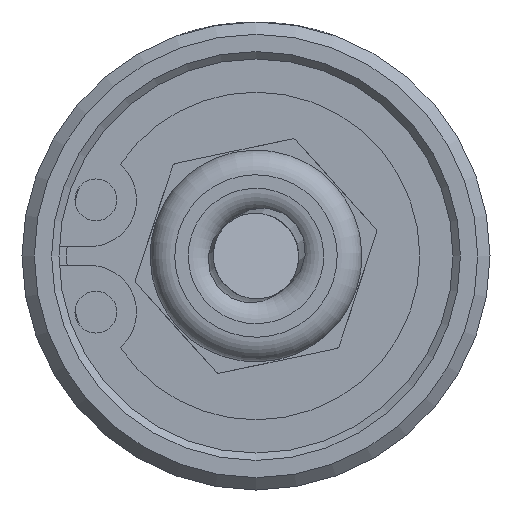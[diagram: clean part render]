
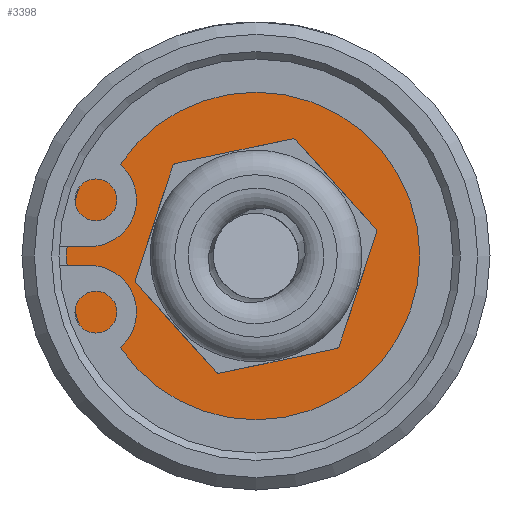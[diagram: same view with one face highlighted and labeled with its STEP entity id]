
A CAD part, left-side view. The second image highlights one B-rep face of the part: STEP entity #3398.
In plain terms, the highlighted planar face has unit normal (-1, 0, 0) as drawn and (0, 0, 1) by its records, which use the part's own axes.
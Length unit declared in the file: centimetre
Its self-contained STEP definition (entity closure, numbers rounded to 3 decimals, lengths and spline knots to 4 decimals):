
#911=PLANE('',#3601);
#978=CIRCLE('',#3597,0.25);
#979=CIRCLE('',#3599,0.77);
#1516=VERTEX_POINT('',#5891);
#1517=VERTEX_POINT('',#5894);
#1937=EDGE_CURVE('',#1516,#1516,#978,.T.);
#1938=EDGE_CURVE('',#1517,#1517,#979,.T.);
#2584=ORIENTED_EDGE('',*,*,#1937,.T.);
#2585=ORIENTED_EDGE('',*,*,#1938,.F.);
#2990=EDGE_LOOP('',(#2584));
#2991=EDGE_LOOP('',(#2585));
#3203=FACE_BOUND('',#2990,.T.);
#3204=FACE_BOUND('',#2991,.T.);
#3398=ADVANCED_FACE('',(#3203,#3204),#911,.T.);
#3597=AXIS2_PLACEMENT_3D('',#5890,#4034,#4035);
#3599=AXIS2_PLACEMENT_3D('',#5893,#4038,#4039);
#3601=AXIS2_PLACEMENT_3D('',#5897,#4042,$);
#4034=DIRECTION('',(0.,0.,-1.));
#4035=DIRECTION('',(0.,0.25,0.));
#4038=DIRECTION('',(0.,0.,-1.));
#4039=DIRECTION('',(0.77,0.,0.));
#4042=DIRECTION('',(0.,0.,1.));
#5890=CARTESIAN_POINT('',(0.,0.,0.3));
#5891=CARTESIAN_POINT('',(0.,0.25,0.3));
#5893=CARTESIAN_POINT('',(0.,0.,0.3));
#5894=CARTESIAN_POINT('',(0.77,0.,0.3));
#5897=CARTESIAN_POINT('',(0.,0.,0.3));
